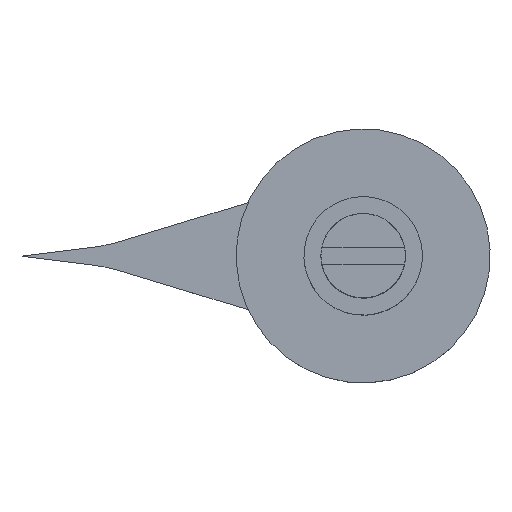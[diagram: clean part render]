
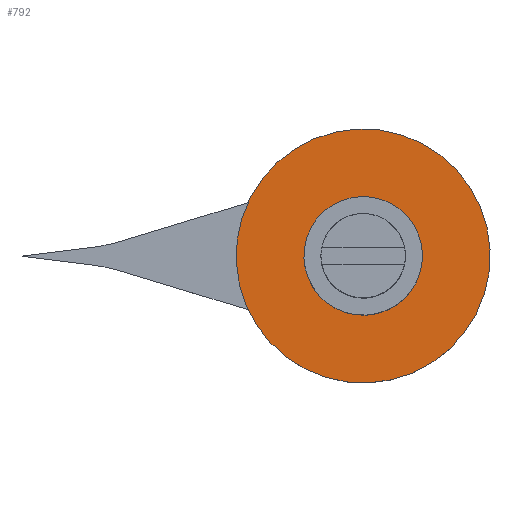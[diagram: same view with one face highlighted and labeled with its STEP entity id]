
A CAD part, top view. The second image highlights one B-rep face of the part: STEP entity #792.
In plain terms, the highlighted planar face has unit normal (0, 0, 1).
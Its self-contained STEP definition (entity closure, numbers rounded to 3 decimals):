
#26 = DIRECTION ( 'NONE',  ( 0., 0., -1. ) ) ;
#101 = CARTESIAN_POINT ( 'NONE',  ( 0., 0., 0. ) ) ;
#137 = VERTEX_POINT ( 'NONE', #278 ) ;
#141 = EDGE_CURVE ( 'NONE', #400, #412, #180, .T. ) ;
#180 = CIRCLE ( 'NONE', #300, 7.5 ) ;
#192 = ORIENTED_EDGE ( 'NONE', *, *, #853, .F. ) ;
#204 = DIRECTION ( 'NONE',  ( -1., 0., 0. ) ) ;
#226 = AXIS2_PLACEMENT_3D ( 'NONE', #101, #597, #457 ) ;
#231 = FACE_BOUND ( 'NONE', #779, .T. ) ;
#237 = EDGE_LOOP ( 'NONE', ( #898, #425 ) ) ;
#278 = CARTESIAN_POINT ( 'NONE',  ( -3.5, 0., 0. ) ) ;
#300 = AXIS2_PLACEMENT_3D ( 'NONE', #428, #26, #204 ) ;
#311 = CARTESIAN_POINT ( 'NONE',  ( 0., 0., 0. ) ) ;
#323 = DIRECTION ( 'NONE',  ( 1., 0., 0. ) ) ;
#395 = CARTESIAN_POINT ( 'NONE',  ( 3.5, 0., 0. ) ) ;
#398 = CARTESIAN_POINT ( 'NONE',  ( 0., 0., 0. ) ) ;
#400 = VERTEX_POINT ( 'NONE', #984 ) ;
#412 = VERTEX_POINT ( 'NONE', #530 ) ;
#425 = ORIENTED_EDGE ( 'NONE', *, *, #998, .F. ) ;
#428 = CARTESIAN_POINT ( 'NONE',  ( 0., 0., 0. ) ) ;
#457 = DIRECTION ( 'NONE',  ( -1., 0., 0. ) ) ;
#478 = VERTEX_POINT ( 'NONE', #395 ) ;
#490 = FACE_OUTER_BOUND ( 'NONE', #237, .T. ) ;
#530 = CARTESIAN_POINT ( 'NONE',  ( -7.5, 0., 0. ) ) ;
#551 = CARTESIAN_POINT ( 'NONE',  ( 0., 0., 0. ) ) ;
#561 = AXIS2_PLACEMENT_3D ( 'NONE', #311, #1014, #627 ) ;
#565 = EDGE_CURVE ( 'NONE', #478, #137, #743, .T. ) ;
#597 = DIRECTION ( 'NONE',  ( 0., 0., -1. ) ) ;
#627 = DIRECTION ( 'NONE',  ( 1., 0., 0. ) ) ;
#715 = AXIS2_PLACEMENT_3D ( 'NONE', #398, #802, #323 ) ;
#743 = CIRCLE ( 'NONE', #561, 3.5 ) ;
#758 = AXIS2_PLACEMENT_3D ( 'NONE', #551, #867, #885 ) ;
#779 = EDGE_LOOP ( 'NONE', ( #192, #961 ) ) ;
#791 = CIRCLE ( 'NONE', #715, 3.5 ) ;
#792 = ADVANCED_FACE ( 'NONE', ( #231, #490 ), #1028, .F. ) ;
#802 = DIRECTION ( 'NONE',  ( 0., 0., 1. ) ) ;
#853 = EDGE_CURVE ( 'NONE', #137, #478, #791, .T. ) ;
#867 = DIRECTION ( 'NONE',  ( 0., 0., -1. ) ) ;
#885 = DIRECTION ( 'NONE',  ( -1., 0., 0. ) ) ;
#898 = ORIENTED_EDGE ( 'NONE', *, *, #141, .F. ) ;
#907 = CIRCLE ( 'NONE', #226, 7.5 ) ;
#961 = ORIENTED_EDGE ( 'NONE', *, *, #565, .F. ) ;
#984 = CARTESIAN_POINT ( 'NONE',  ( 7.5, 0., 0. ) ) ;
#998 = EDGE_CURVE ( 'NONE', #412, #400, #907, .T. ) ;
#1014 = DIRECTION ( 'NONE',  ( 0., 0., 1. ) ) ;
#1028 = PLANE ( 'NONE',  #758 ) ;
